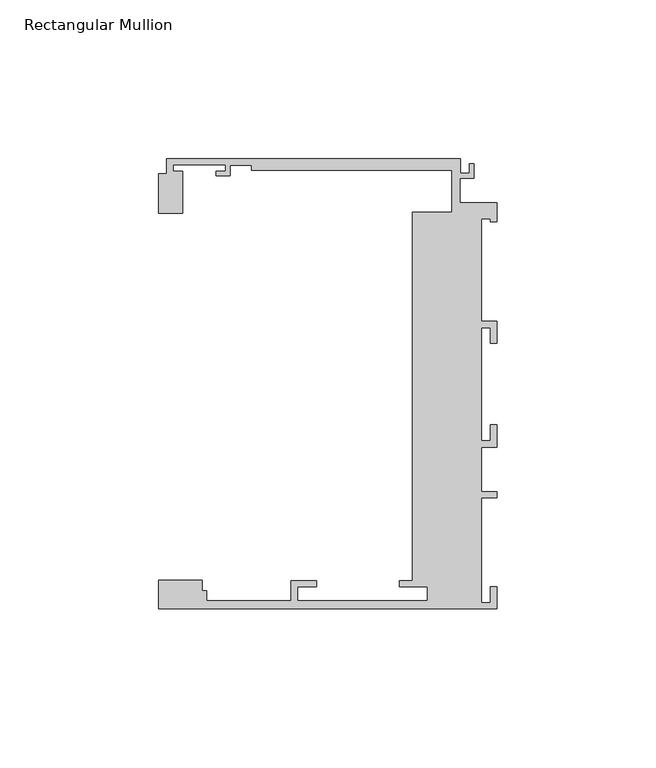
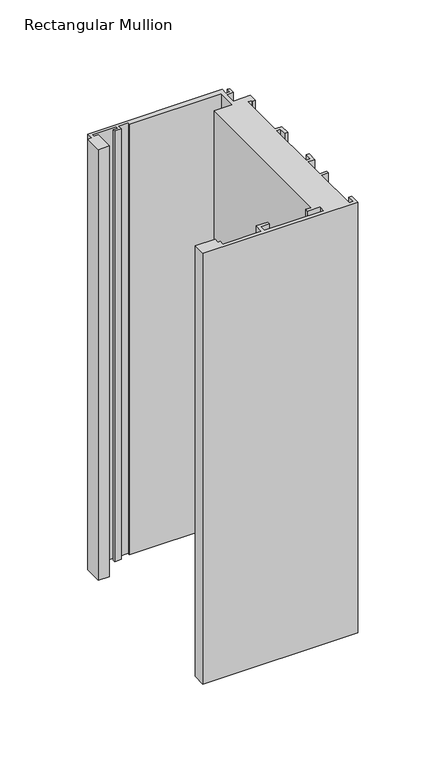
"""IFC4 building model written with IfcOpenShell, lengths in millimetres: member geometry, Rectangular Mullion : Danpal_K12_End-Mullion_B2."""

from ifc_helpers import new_model, si_unit, frame, origin, place, context, project, spatial, polyline, outline, extrude, source, transform, mapped, element, save


def rectangular_mullion_b4a1a5f1(model_context):
    return source(origin(), model_context, "Body", "SweptSolid", [
        extrude(outline(polyline([(-26.6209612, -1.9446289), (-14.1055875, -1.9446289), (-14.1055875, 11.3051512), (-77.1531178, 11.3051512), (-77.1531178, 12.8051513), (-83.8999976, 12.8051513), (-83.8999976, 9.5051512), (-88.3999976, 9.5051512), (-88.3999976, 11.0051513), (-85.3999976, 11.0051513), (-85.3999976, 13.0051512), (-101.8999976, 13.0051512), (-101.8999976, 11.0051513), (-98.8999976, 11.0051513), (-98.8999976, -2.316674), (-106.4117426, -2.316674), (-106.4117426, 10.065304), (-103.8999976, 10.065304), (-103.8999976, 14.8051514), (-11.4019537, 14.8051514), (-11.4019537, 10.3006425), (-8.6518595, 10.3006425), (-8.6518595, 13.3051514), (-7.1518595, 13.3051514), (-7.1518595, 8.8006425), (-11.6055875, 8.8006425), (-11.6055875, 1.0551514), (0.0, 1.0551514), (0.0, -4.9448486), (-2.0, -4.9448486), (-2.0, -3.9448486), (-4.8, -3.9448486), (-4.8, -36.2443486), (0.0, -36.2443486), (0.0, -43.2443486), (-2.0, -43.2443486), (-2.0, -38.2443486), (-4.8, -38.2443486), (-4.8, -73.8676657), (-2.0, -73.8676657), (-2.0, -68.8676657), (0.0, -68.8676657), (0.0, -75.867683), (-4.8, -75.867683), (-4.8, -89.8676485), (0.0, -89.8676485), (0.0, -91.8676485), (-4.8, -91.8676485), (-4.8, -124.7676657), (-2.0, -124.7676657), (-2.0, -119.7676657), (0.0, -119.7676657), (0.0, -126.7676657), (-106.4117426, -126.7676657), (-106.4117426, -117.6986749), (-92.8228167, -117.6986749), (-92.8228167, -121.0676175), (-91.2900275, -121.0676175), (-91.2900275, -124.2676658), (-64.7350275, -124.2676658), (-64.7350275, -117.8676658), (-56.7350275, -117.8676658), (-56.7350275, -119.8676658), (-62.7350275, -119.8676658), (-62.7350275, -124.2676658), (-21.835, -124.2676658), (-21.835, -119.8676658), (-30.6, -119.8676658), (-30.6, -117.8676658), (-26.6209612, -117.8676658), (-26.6209612, -1.9446289)])), frame((0.0, 0.0, -312.970611), z_axis=(0.0, 0.0, 1.0), x_axis=(1.0, 0.0, 0.0)), (0.0, 0.0, 1.0), 312.970611),
    ])


if __name__ == "__main__":
    model = new_model("IFC4")
    model_context = context("Model", 3, world=origin())
    ifc_project = project(units=[si_unit("LENGTHUNIT", "METRE", prefix="MILLI")], contexts=[model_context])
    site = spatial("IfcSite", under=ifc_project)
    building = spatial("IfcBuilding", under=site)
    placement = place(None, origin())
    rectangular_mullion_shape = rectangular_mullion_b4a1a5f1(model_context)
    element("IfcMember", 1, ObjectType="Rectangular Mullion : Danpal_K12_End-Mullion_B2", at=placement, inside=building, context=model_context, shape_type="MappedRepresentation", body=[
        mapped(rectangular_mullion_shape, transform((0.0, 0.0, 0.0), x_axis=(1.0, 0.0, 0.0), y_axis=(0.0, 1.0, 0.0), z_axis=(0.0, 0.0, 1.0))),
    ])
    save(model, "model.ifc")
